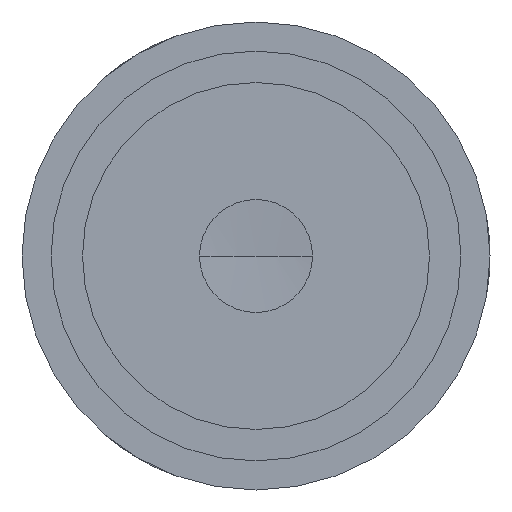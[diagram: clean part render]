
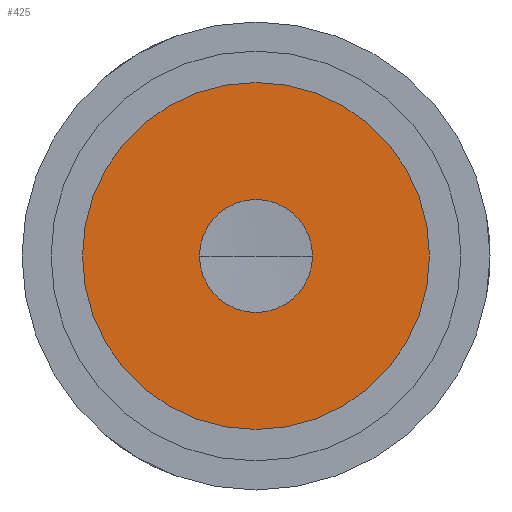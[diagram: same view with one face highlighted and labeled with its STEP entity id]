
A CAD part, front view. The second image highlights one B-rep face of the part: STEP entity #425.
In plain terms, the highlighted planar face has unit normal (0, -1, 0).
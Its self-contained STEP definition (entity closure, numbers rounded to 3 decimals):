
#23 = EDGE_LOOP ( 'NONE', ( #609, #958 ) ) ;
#40 = VERTEX_POINT ( 'NONE', #1156 ) ;
#120 = DIRECTION ( 'NONE',  ( 0., -1., 0. ) ) ;
#213 = CARTESIAN_POINT ( 'NONE',  ( 0., -65.854, -11.5 ) ) ;
#238 = CARTESIAN_POINT ( 'NONE',  ( 0., -65.854, 3.5 ) ) ;
#345 = VERTEX_POINT ( 'NONE', #238 ) ;
#351 = FACE_BOUND ( 'NONE', #23, .T. ) ;
#357 = CIRCLE ( 'NONE', #562, 11.5 ) ;
#367 = AXIS2_PLACEMENT_3D ( 'NONE', #515, #456, #568 ) ;
#403 = AXIS2_PLACEMENT_3D ( 'NONE', #1426, #1311, #1200 ) ;
#425 = ADVANCED_FACE ( 'NONE', ( #351, #1861 ), #1364, .T. ) ;
#456 = DIRECTION ( 'NONE',  ( 0., 1., 0. ) ) ;
#489 = CIRCLE ( 'NONE', #367, 11.5 ) ;
#496 = CARTESIAN_POINT ( 'NONE',  ( -11.5, -65.854, 0. ) ) ;
#515 = CARTESIAN_POINT ( 'NONE',  ( 0., -65.854, 0. ) ) ;
#562 = AXIS2_PLACEMENT_3D ( 'NONE', #1086, #648, #618 ) ;
#568 = DIRECTION ( 'NONE',  ( 0., 0., 1. ) ) ;
#609 = ORIENTED_EDGE ( 'NONE', *, *, #1253, .T. ) ;
#618 = DIRECTION ( 'NONE',  ( 0., 0., 1. ) ) ;
#648 = DIRECTION ( 'NONE',  ( 0., 1., 0. ) ) ;
#672 = DIRECTION ( 'NONE',  ( 0., 1., 0. ) ) ;
#691 = CIRCLE ( 'NONE', #782, 3.5 ) ;
#782 = AXIS2_PLACEMENT_3D ( 'NONE', #1248, #672, #1601 ) ;
#865 = ORIENTED_EDGE ( 'NONE', *, *, #1258, .F. ) ;
#924 = EDGE_CURVE ( 'NONE', #1591, #345, #691, .T. ) ;
#958 = ORIENTED_EDGE ( 'NONE', *, *, #924, .T. ) ;
#1086 = CARTESIAN_POINT ( 'NONE',  ( 0., -65.854, 0. ) ) ;
#1094 = EDGE_CURVE ( 'NONE', #1193, #40, #357, .T. ) ;
#1151 = ORIENTED_EDGE ( 'NONE', *, *, #1094, .F. ) ;
#1156 = CARTESIAN_POINT ( 'NONE',  ( 0., -65.854, 11.5 ) ) ;
#1193 = VERTEX_POINT ( 'NONE', #213 ) ;
#1200 = DIRECTION ( 'NONE',  ( 0., 0., 1. ) ) ;
#1235 = CARTESIAN_POINT ( 'NONE',  ( 0., -65.854, -3.5 ) ) ;
#1248 = CARTESIAN_POINT ( 'NONE',  ( 0., -65.854, 0. ) ) ;
#1253 = EDGE_CURVE ( 'NONE', #345, #1591, #1767, .T. ) ;
#1258 = EDGE_CURVE ( 'NONE', #40, #1193, #489, .T. ) ;
#1311 = DIRECTION ( 'NONE',  ( 0., 1., 0. ) ) ;
#1364 = PLANE ( 'NONE',  #1379 ) ;
#1379 = AXIS2_PLACEMENT_3D ( 'NONE', #496, #120, #1815 ) ;
#1400 = EDGE_LOOP ( 'NONE', ( #865, #1151 ) ) ;
#1426 = CARTESIAN_POINT ( 'NONE',  ( 0., -65.854, 0. ) ) ;
#1591 = VERTEX_POINT ( 'NONE', #1235 ) ;
#1601 = DIRECTION ( 'NONE',  ( 0., 0., 1. ) ) ;
#1767 = CIRCLE ( 'NONE', #403, 3.5 ) ;
#1815 = DIRECTION ( 'NONE',  ( 0., 0., -1. ) ) ;
#1861 = FACE_OUTER_BOUND ( 'NONE', #1400, .T. ) ;
